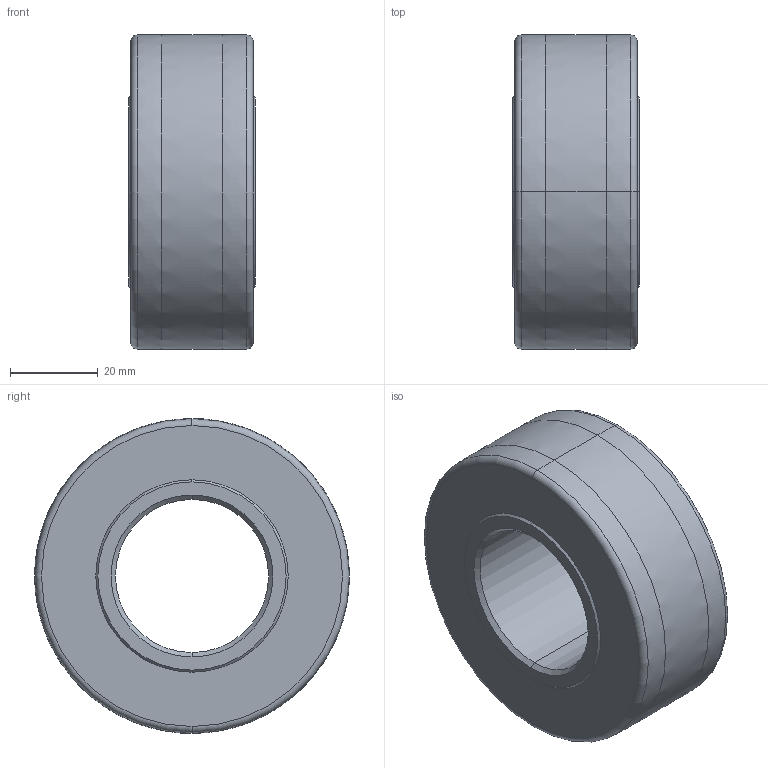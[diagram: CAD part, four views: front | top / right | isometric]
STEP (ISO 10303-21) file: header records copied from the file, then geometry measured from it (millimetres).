
FILE_DESCRIPTION (( 'STEP AP214' ), '1' );
FILE_NAME ('3DNUTR35-72.STEP', '2013-12-18T09:23:17', ( 'usuario' ), ( 'Hewlett-Packard Company' ), 'SwSTEP 2.0', 'SolidWorks 2017', '' );
FILE_SCHEMA (( 'AUTOMOTIVE_DESIGN' ));
Length unit declared in the file: millimetre
Products named in the file (1): 3DNUTR35-72
Bounding box: 29 x 71.99 x 71.99 mm (x, y, z)
Volume: 87026.1 mm3; surface area: 15328.6 mm2
Topology: 1 solids, 1 shells, 28 faces, 56 edges, 32 vertices
Faces by surface type: torus 10, cone 8, cylinder 6, plane 4
Entity records: 772 total; most frequent: DIRECTION 156, CARTESIAN_POINT 117, ORIENTED_EDGE 112, AXIS2_PLACEMENT_3D 71, EDGE_CURVE 56, CIRCLE 42, EDGE_LOOP 32, VERTEX_POINT 32
